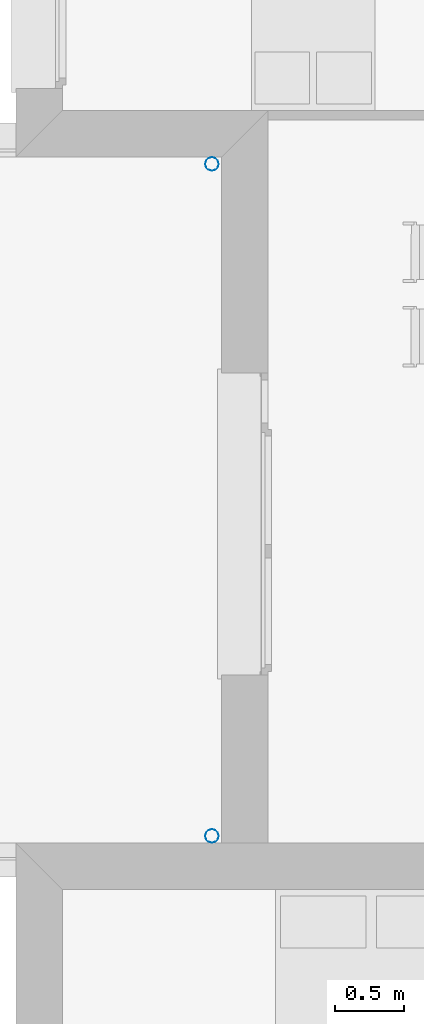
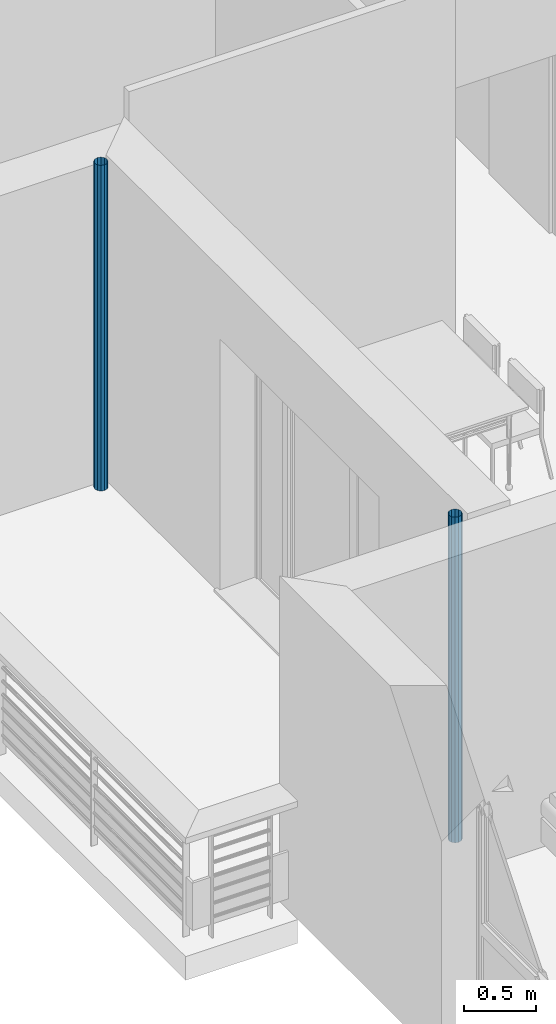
# One storey, part 77 of 164: 2 discrete accessories.
"""IFC2X3 building model written with IfcOpenShell, lengths in millimetres."""

from ifc_helpers import new_model, entity, si_unit, converted_unit, derived_unit, money_unit, direction, frame, origin_with_axes, place, context, subcontext, project, spatial, open_shell, surface_model, source, transform, mapped, type_object, element, save


model = new_model("IFC2X3")

# Units and contexts
model_context = context("Model", 3, precision=0.01, world=origin_with_axes(), true_north=direction((0.0, 1.0)))
body_context = subcontext(model_context, "Body", "Model", "MODEL_VIEW")
ifc_project = project(units=[si_unit("LENGTHUNIT", "METRE", prefix="MILLI"), si_unit("AREAUNIT", "SQUARE_METRE"), si_unit("VOLUMEUNIT", "CUBIC_METRE"), converted_unit("PLANEANGLEUNIT", "DEGREE", entity("IfcPlaneAngleMeasure", 0.0174532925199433), si_unit("PLANEANGLEUNIT", "RADIAN"), dimensions=[0, 0, 0, 0, 0, 0, 0]), money_unit("USD"), converted_unit("TIMEUNIT", "Year", entity("IfcTimeMeasure", 31557600.0), si_unit("TIMEUNIT", "SECOND"), dimensions=[0, 0, 1, 0, 0, 0, 0]), si_unit("MASSUNIT", "GRAM", prefix="KILO"), si_unit("THERMODYNAMICTEMPERATUREUNIT", "DEGREE_CELSIUS"), si_unit("LUMINOUSINTENSITYUNIT", "LUMEN"), si_unit("ENERGYUNIT", "JOULE", prefix="MEGA"), derived_unit("THERMALCONDUCTANCEUNIT", [(si_unit("POWERUNIT", "WATT"), 1), (si_unit("LENGTHUNIT", "METRE"), -1), (si_unit("THERMODYNAMICTEMPERATUREUNIT", "KELVIN"), -1)]), derived_unit("SPECIFICHEATCAPACITYUNIT", [(si_unit("ENERGYUNIT", "JOULE"), 1), (si_unit("MASSUNIT", "GRAM", prefix="KILO"), -1), (si_unit("THERMODYNAMICTEMPERATUREUNIT", "KELVIN"), -1)]), derived_unit("MASSDENSITYUNIT", [(si_unit("MASSUNIT", "GRAM", prefix="KILO"), 1), (si_unit("VOLUMEUNIT", "CUBIC_METRE"), -1)])], contexts=[model_context])

# Site, building, storey
site_placement = place(None, origin_with_axes())
site = spatial("IfcSite", under=ifc_project, at=site_placement, Name="Site", CompositionType="ELEMENT")
building_placement = place(site_placement, origin_with_axes())
building = spatial("IfcBuilding", under=site, at=building_placement, Name="Bâtiment", CompositionType="ELEMENT")
storey_placement = place(building_placement, frame((0.0, 0.0, 5750.0), z_axis=(0.0, 0.0, 1.0), x_axis=(1.0, 0.0, 0.0)))
storey = spatial("IfcBuildingStorey", under=building, at=storey_placement, Name="Etage1", CompositionType="ELEMENT", Elevation=5750.0)

# Discrete accessories
discrete_accessory_type = type_object("IfcDiscreteAccessoryType", Name="Tuyau descente 27")
shared_shape = source(origin_with_axes(), body_context, "Body", "SurfaceModel", [
    surface_model("IfcShellBasedSurfaceModel", [(50.0, 0.0, 2750.0), (43.30127018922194, -25.0, 2750.0), (43.30127018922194, -25.0, 0.0), (50.0, 0.0, 0.0), (25.00000000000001, -43.30127018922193, 2750.0), (25.00000000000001, -43.30127018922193, 0.0), (43.30127018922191, 25.00000000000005, 2750.0), (43.30127018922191, 25.00000000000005, 0.0), (0.0, -50.0, 2750.0), (0.0, -50.0, 0.0), (24.99999999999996, 43.30127018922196, 2750.0), (24.99999999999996, 43.30127018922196, 0.0), (-24.99999999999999, -43.30127018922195, 2750.0), (-24.99999999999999, -43.30127018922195, 0.0), (0.0, 50.0, 2750.0), (0.0, 50.0, 0.0), (-43.30127018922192, -25.00000000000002, 2750.0), (-43.30127018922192, -25.00000000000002, 0.0), (-25.00000000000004, 43.30127018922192, 2750.0), (-25.00000000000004, 43.30127018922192, 0.0), (-50.0, 0.0, 2750.0), (-50.0, 0.0, 0.0), (-43.30127018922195, 24.99999999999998, 2750.0), (-43.30127018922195, 24.99999999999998, 0.0)], [open_shell([[[0, 1, 2, 3]], [[1, 4, 5, 2]], [[6, 0, 3, 7]], [[4, 8, 9, 5]], [[10, 6, 7, 11]], [[8, 12, 13, 9]], [[14, 10, 11, 15]], [[12, 16, 17, 13]], [[18, 14, 15, 19]], [[16, 20, 21, 17]], [[22, 18, 19, 23]], [[20, 22, 23, 21]]])]),
])
for number, where, z_axis, x_axis, name in (
    (1, (2218064.406529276, -639066.8076992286, 0.0), (0.0, 0.0, 1.0), (1.0, 0.0, 0.0), "Obj.-318"),
    (2, (2218064.406529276, -643966.3765042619, 0.0), (0.0, 0.0, 1.0), (1.0, 0.0, 0.0), "Obj.-318"),
):
    element("IfcDiscreteAccessory", number, at=place(storey_placement, frame(where, z_axis=z_axis, x_axis=x_axis)), inside=storey, type_object=discrete_accessory_type, Name=name, context=body_context, shape_type="MappedRepresentation", body=[
        mapped(shared_shape, transform((0.0, 0.0, 0.0))),
    ])

save(model, "model.ifc")
